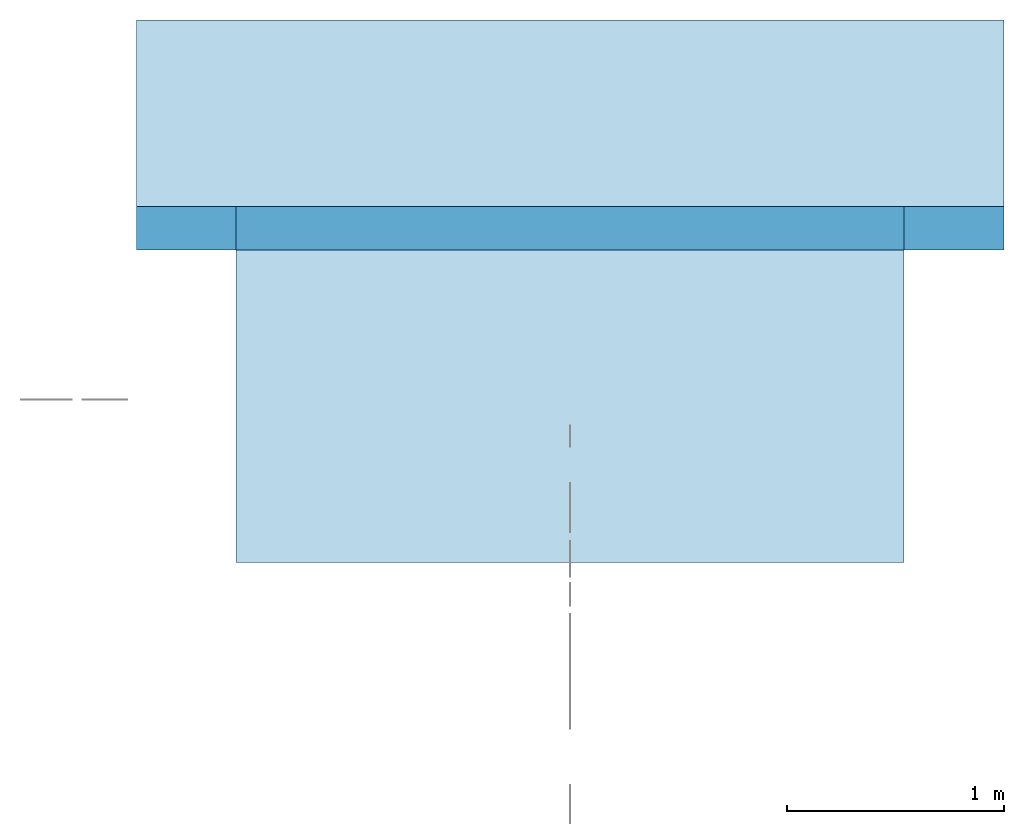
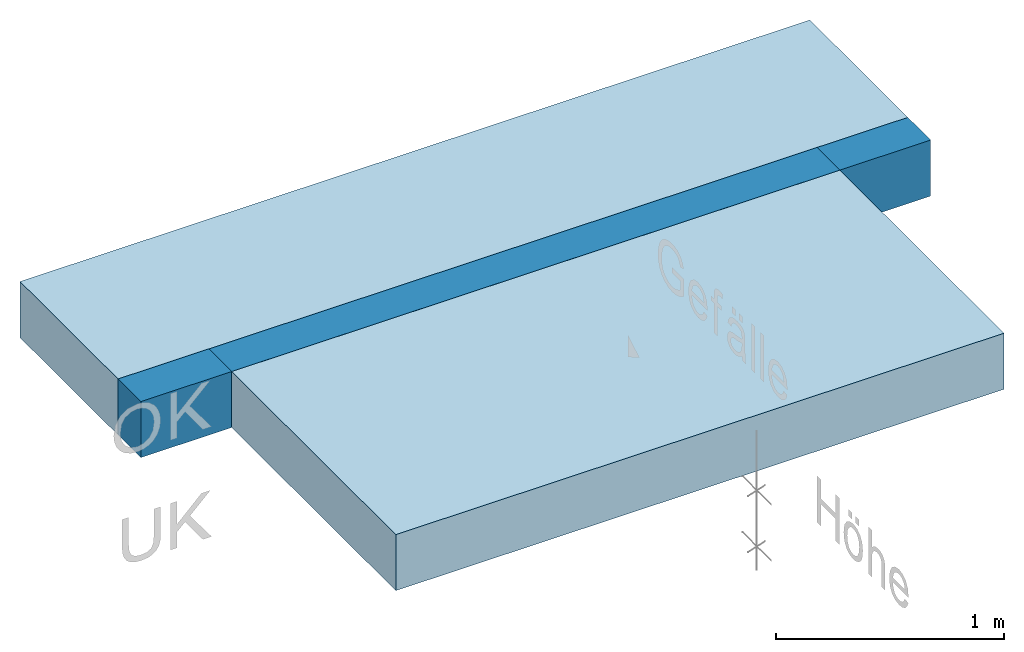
# One storey, part 1 of 2: 2 slabs, 2 walls, 1 beam.
"""IFC4 building model written with IfcOpenShell, lengths in metres."""

import ifcopenshell
import ifcopenshell.guid

model = None  # the IFC model being written
_history = None  # IfcOwnerHistory: only IFC2X3 demands one
_inside = {}  # id of a spatial element -> (the spatial element, [elements in it])
_under = {}  # id of a project, library or spatial element -> (it, [spatial elements below it])
_declared = {}  # id of a project -> (the project, [libraries it declares])
_typed = {}  # id of a type object -> (the type object, [elements of that type])
_made_of = {}  # id of a material, layer set ... -> (it, [elements and type objects made of it])


def new_model(schema):
    """Start an empty IFC model of exactly this schema.

    Asked for "IFC4X3", IfcOpenShell would pick the latest addendum, in which some entities
    have other attributes; the version numbers below select the first issue.
    IFC2X3 requires an IfcOwnerHistory on every rooted entity: one is made here for all.
    """
    global model, _history
    if schema == "IFC4X3":
        model = ifcopenshell.file(schema_version=(4, 3, 0, 0))
    else:
        model = ifcopenshell.file(schema=schema)
    _inside.clear()
    _under.clear()
    _declared.clear()
    _typed.clear()
    _made_of.clear()
    _history = None
    if model.schema == "IFC2X3":
        org = make("IfcOrganization", Name="unknown")
        user = make(
            "IfcPersonAndOrganization",
            ThePerson=make("IfcPerson", FamilyName="unknown"),
            TheOrganization=org,
        )
        app = make(
            "IfcApplication",
            ApplicationDeveloper=org,
            Version="unknown",
            ApplicationFullName="unknown",
            ApplicationIdentifier="unknown",
        )
        _history = make(
            "IfcOwnerHistory",
            OwningUser=user,
            OwningApplication=app,
            ChangeAction="ADDED",
            CreationDate=0,
        )
    return model


def make(cls, **values):
    """One entity of the class cls with the attributes given. An attribute that is None is left unset."""
    return model.create_entity(
        cls, **{name: value for name, value in values.items() if value is not None}
    )


def entity(cls, *values):
    """Any entity or typed value of the class cls, its attributes in the order of the schema. None: left unset."""
    e = model.create_entity(cls)
    for i, value in enumerate(values):
        if value is not None:
            e[i] = value
    return e


def rooted(cls, **values):
    """An entity with a GlobalId (a new one), such as an element, a storey or a relation."""
    return make(cls, GlobalId=ifcopenshell.guid.new(), OwnerHistory=_history, **values)


def si_unit(unit_type, name, prefix=None):
    """IfcSIUnit, for example si_unit("LENGTHUNIT", "METRE", prefix="MILLI")."""
    return make("IfcSIUnit", UnitType=unit_type, Prefix=prefix, Name=name)


def converted_unit(unit_type, name, factor, base, dimensions=None, offset=None):
    """IfcConversionBasedUnit, such as the inch: factor (a typed value) times the base unit."""
    return make(
        "IfcConversionBasedUnit"
        if offset is None
        else "IfcConversionBasedUnitWithOffset",
        ConversionOffset=offset,
        Dimensions=None
        if dimensions is None
        else entity("IfcDimensionalExponents", *dimensions),
        UnitType=unit_type,
        Name=name,
        ConversionFactor=make(
            "IfcMeasureWithUnit", ValueComponent=factor, UnitComponent=base
        ),
    )


def derived_unit(unit_type, elements):
    """IfcDerivedUnit: a product of units, each with its exponent."""
    return make(
        "IfcDerivedUnit",
        Elements=[
            make("IfcDerivedUnitElement", Unit=unit, Exponent=power)
            for unit, power in elements
        ],
        UnitType=unit_type,
    )


def assignment(units):
    """IfcUnitAssignment: the units of a project."""
    return None if units is None else make("IfcUnitAssignment", Units=units)


def point(xyz):
    """IfcCartesianPoint."""
    return None if xyz is None else make("IfcCartesianPoint", Coordinates=xyz)


def direction(xyz):
    """IfcDirection."""
    return None if xyz is None else make("IfcDirection", DirectionRatios=xyz)


def frame(location, z_axis=None, x_axis=None):
    """IfcAxis2Placement3D, a coordinate frame: its origin and axes. An axis left out is left unset."""
    return make(
        "IfcAxis2Placement3D",
        Location=point(location),
        Axis=direction(z_axis),
        RefDirection=direction(x_axis),
    )


def frame_2d(location, x_axis=None):
    """IfcAxis2Placement2D, a coordinate frame in the plane: its origin and x axis."""
    return make(
        "IfcAxis2Placement2D", Location=point(location), RefDirection=direction(x_axis)
    )


def origin():
    """The frame at (0, 0, 0) with its axes left unset."""
    return frame((0.0, 0.0, 0.0))


def origin_with_axes():
    """The frame at (0, 0, 0) with the z axis (0, 0, 1) and the x axis (1, 0, 0) written out."""
    return frame((0.0, 0.0, 0.0), z_axis=(0.0, 0.0, 1.0), x_axis=(1.0, 0.0, 0.0))


def place(relative_to, where):
    """IfcLocalPlacement: puts the frame where relative to a parent placement (None: the world)."""
    return make(
        "IfcLocalPlacement", PlacementRelTo=relative_to, RelativePlacement=where
    )


def context(
    kind, dimensions, precision=None, world=None, true_north=None, identifier=None
):
    """IfcGeometricRepresentationContext, for example the 3D "Model" context."""
    return make(
        "IfcGeometricRepresentationContext",
        ContextIdentifier=identifier,
        ContextType=kind,
        CoordinateSpaceDimension=dimensions,
        Precision=precision,
        WorldCoordinateSystem=world,
        TrueNorth=true_north,
    )


def subcontext(parent, identifier, kind, view, scale=None):
    """IfcGeometricRepresentationSubContext, for example "Body" below "Model"."""
    return make(
        "IfcGeometricRepresentationSubContext",
        ContextIdentifier=identifier,
        ContextType=kind,
        ParentContext=parent,
        TargetScale=scale,
        TargetView=view,
    )


def project(units=None, contexts=None):
    """IfcProject with its units and contexts."""
    return rooted(
        "IfcProject",
        Name="project",
        RepresentationContexts=contexts,
        UnitsInContext=assignment(units),
    )


def spatial(cls, under=None, at=None, **own):
    """A site, building, storey or space (cls), placed at a placement, below another one or the project."""
    s = rooted(cls, ObjectPlacement=at, **own)
    if under is not None:
        _under.setdefault(under.id(), (under, []))[1].append(s)
    return s


def profile(cls, at=None, kind="AREA", **sizes):
    """A parametric profile (cls). Its sizes go by their IFC names, for example OverallWidth=200.0."""
    return make(cls, ProfileType=kind, Position=at, **sizes)


def rectangle(**sizes):
    """IfcRectangleProfileDef."""
    return profile("IfcRectangleProfileDef", **sizes)


def extrude(swept, where, along, depth):
    """IfcExtrudedAreaSolid: the profile swept, set in the frame where, extruded along a direction by depth."""
    return make(
        "IfcExtrudedAreaSolid",
        SweptArea=swept,
        Position=where,
        ExtrudedDirection=direction(along),
        Depth=depth,
    )


def shape(context_of_items, identifier, shape_type, items):
    """IfcShapeRepresentation: the items that make up one representation, for example the "Body"."""
    return make(
        "IfcShapeRepresentation",
        ContextOfItems=context_of_items,
        RepresentationIdentifier=identifier,
        RepresentationType=shape_type,
        Items=items,
    )


def material(Name=None, Category=None):
    """IfcMaterial."""
    return make("IfcMaterial", Name=Name, Category=Category)


def layer(
    of_material, thickness, ventilated=None, Name=None, Category=None, Priority=None
):
    """IfcMaterialLayer: one layer of a wall or slab, of a material (None: an air gap)."""
    return make(
        "IfcMaterialLayer",
        Material=of_material,
        LayerThickness=thickness,
        IsVentilated=ventilated,
        Name=Name,
        Category=Category,
        Priority=Priority,
    )


def layer_set(layers, Name=None):
    """IfcMaterialLayerSet."""
    return make("IfcMaterialLayerSet", MaterialLayers=layers, LayerSetName=Name)


def layer_usage(for_layer_set, set_direction, sense, offset, extent=None):
    """IfcMaterialLayerSetUsage: how a layer set lies in its element."""
    return make(
        "IfcMaterialLayerSetUsage",
        ForLayerSet=for_layer_set,
        LayerSetDirection=set_direction,
        DirectionSense=sense,
        OffsetFromReferenceLine=offset,
        ReferenceExtent=extent,
    )


def made_of(thing, what):
    """Note that an element or type object is made of a material, layer set ...; save() writes the relation."""
    if what is not None:
        _made_of.setdefault(what.id(), (what, []))[1].append(thing)
    return thing


def element(
    cls,
    number,
    at=None,
    inside=None,
    cuts=None,
    type_object=None,
    material=None,
    context=None,
    identifier="Body",
    shape_type=None,
    held_by="IfcProductDefinitionShape",
    body=None,
    shapes=None,
    **own,
):
    """One element of the class cls, such as IfcWall. Its Tag is "e" and its number.

    at: its placement. inside: the storey or other place that contains it. cuts: it is an
    opening in that element (IfcRelVoidsElement). A single representation is given by context,
    identifier, shape_type and body (its items); several are given by shapes. held_by: the class
    of the entity that holds the representations. save() writes the other relations.
    """
    e = rooted(cls, Tag="e%d" % number, ObjectPlacement=at, **own)
    if body is not None:
        shapes = [shape(context, identifier, shape_type, body)]
    if shapes is not None:
        e.Representation = make(held_by, Representations=shapes)
    if inside is not None:
        _inside.setdefault(inside.id(), (inside, []))[1].append(e)
    if cuts is not None:
        rooted(
            "IfcRelVoidsElement", RelatingBuildingElement=cuts, RelatedOpeningElement=e
        )
    if type_object is not None:
        _typed.setdefault(type_object.id(), (type_object, []))[1].append(e)
    return made_of(e, material)


def aggregate(whole, parts):
    """IfcRelAggregates: a whole, such as a stair, and the parts it consists of."""
    return rooted("IfcRelAggregates", RelatingObject=whole, RelatedObjects=parts)


def save(model, path):
    """Write the relations noted so far, then the file.

    IfcRelAggregates (storeys below a building ...), IfcRelContainedInSpatialStructure (elements
    in a storey), IfcRelDefinesByType, IfcRelAssociatesMaterial and IfcRelDeclares: one each for
    every whole, place, type object, material and project.
    """
    for whole, parts in _under.values():
        aggregate(whole, parts)
    for where, things in _inside.values():
        rooted(
            "IfcRelContainedInSpatialStructure",
            RelatedElements=things,
            RelatingStructure=where,
        )
    for kind, things in _typed.values():
        rooted("IfcRelDefinesByType", RelatedObjects=things, RelatingType=kind)
    for what, things in _made_of.values():
        rooted("IfcRelAssociatesMaterial", RelatedObjects=things, RelatingMaterial=what)
    for by, libraries in _declared.values():
        rooted("IfcRelDeclares", RelatingContext=by, RelatedDefinitions=libraries)
    model.write(path)


model = new_model("IFC4")

# Units and contexts
model_context = context("Model", 3, precision=1e-05, world=origin())
body_context = subcontext(model_context, "Body", "Model", "MODEL_VIEW")
ifc_project = project(units=[si_unit("LENGTHUNIT", "METRE"), si_unit("AREAUNIT", "SQUARE_METRE"), si_unit("VOLUMEUNIT", "CUBIC_METRE"), si_unit("MASSUNIT", "GRAM", prefix="KILO"), converted_unit("PLANEANGLEUNIT", "DEGREE", entity("IfcPlaneAngleMeasure", 0.0174532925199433), si_unit("PLANEANGLEUNIT", "RADIAN"), dimensions=[0, 0, 0, 0, 0, 0, 0]), derived_unit("THERMALTRANSMITTANCEUNIT", [(si_unit("POWERUNIT", "WATT"), 1), (si_unit("THERMODYNAMICTEMPERATUREUNIT", "KELVIN"), -1), (si_unit("LENGTHUNIT", "METRE"), -2)]), derived_unit("VOLUMETRICFLOWRATEUNIT", [(si_unit("LENGTHUNIT", "METRE"), 3), (converted_unit("TIMEUNIT", "hour", entity("IfcTimeMeasure", 3600.0), si_unit("TIMEUNIT", "SECOND"), dimensions=[0, 0, 1, 0, 0, 0, 0]), -1), (si_unit("LENGTHUNIT", "METRE"), -1)])], contexts=[model_context])

# Site, building, storey
site_placement = place(None, origin())
site = spatial("IfcSite", under=ifc_project, at=site_placement, Name="Liegenschaft", CompositionType="ELEMENT")
building_placement = place(site_placement, origin())
building = spatial("IfcBuilding", under=site, at=building_placement, Name="Gebäude", CompositionType="ELEMENT")
storey_placement = place(building_placement, origin())
storey = spatial("IfcBuildingStorey", under=building, at=storey_placement, Name="Geschoss 01", CompositionType="ELEMENT", Elevation=0.0)

# Beam
ifc_material_1 = material(Name="Mineralwolledämmung")
beam_placement = place(storey_placement, frame((100.56, -0.4, 0.0)))
element("IfcBeam", 1, at=beam_placement, inside=storey, material=ifc_material_1, PredefinedType="NOTDEFINED", context=body_context, shape_type="SweptSolid", body=[
    extrude(rectangle(XDim=0.2, YDim=0.3, at=frame_2d((0.1, 0.15), x_axis=(1.0, 0.0))), frame((0.0, 0.0, 0.0), z_axis=(1.0, 0.0, 0.0), x_axis=(0.0, 1.0, 0.0)), (0.0, 0.0, 1.0), 3.08),
])

# Slabs
slab_1_placement = place(storey_placement, frame((100.56, -1.84, 0.0)))
element("IfcSlab", 2, at=slab_1_placement, inside=storey, PredefinedType="FLOOR", context=body_context, shape_type="SweptSolid", body=[
    extrude(rectangle(XDim=1.44, YDim=3.08, at=frame_2d((1.54, -0.72), x_axis=(0.0, -1.0))), frame((0.0, 1.44, 0.0), z_axis=(0.0, 0.0, 1.0), x_axis=(1.0, 0.0, 0.0)), (0.0, 0.0, 1.0), 0.3),
])
slab_2_placement = place(storey_placement, frame((100.1, -0.2, 0.0)))
element("IfcSlab", 3, at=slab_2_placement, inside=storey, PredefinedType="FLOOR", context=body_context, shape_type="SweptSolid", body=[
    extrude(rectangle(XDim=0.86, YDim=4.0, at=frame_2d((2.0, -0.43), x_axis=(0.0, -1.0))), frame((0.0, 0.86, 0.0), z_axis=(0.0, 0.0, 1.0), x_axis=(1.0, 0.0, 0.0)), (0.0, 0.0, 1.0), 0.3),
])

# Walls
ifc_material_2 = material()
ifc_layer_1 = layer(ifc_material_2, 0.200000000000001)
ifc_layer_set_1 = layer_set([ifc_layer_1])
ifc_layer_usage_1 = layer_usage(ifc_layer_set_1, "AXIS2", "POSITIVE", -0.200000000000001)
wall_1_placement = place(storey_placement, frame((100.1, -0.4, 0.0)))
element("IfcWall", 4, at=wall_1_placement, inside=storey, material=ifc_layer_usage_1, context=body_context, shape_type="SweptSolid", body=[
    extrude(rectangle(XDim=0.46, YDim=0.200000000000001, at=frame_2d((0.23, 0.100000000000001), x_axis=(1.0, 0.0))), origin_with_axes(), (0.0, 0.0, 1.0), 0.3),
])
ifc_material_3 = material()
ifc_layer_2 = layer(ifc_material_3, 0.200000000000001)
ifc_layer_set_2 = layer_set([ifc_layer_2])
ifc_layer_usage_2 = layer_usage(ifc_layer_set_2, "AXIS2", "POSITIVE", -0.200000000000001)
wall_2_placement = place(storey_placement, frame((103.64, -0.400000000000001, 0.0)))
element("IfcWall", 5, at=wall_2_placement, inside=storey, material=ifc_layer_usage_2, context=body_context, shape_type="SweptSolid", body=[
    extrude(rectangle(XDim=0.46, YDim=0.200000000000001, at=frame_2d((0.23, 0.100000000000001), x_axis=(1.0, 0.0))), origin_with_axes(), (0.0, 0.0, 1.0), 0.3),
])

save(model, "model.ifc")
